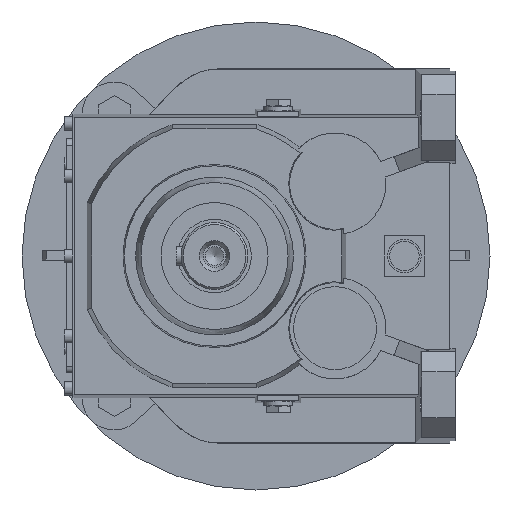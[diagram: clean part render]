
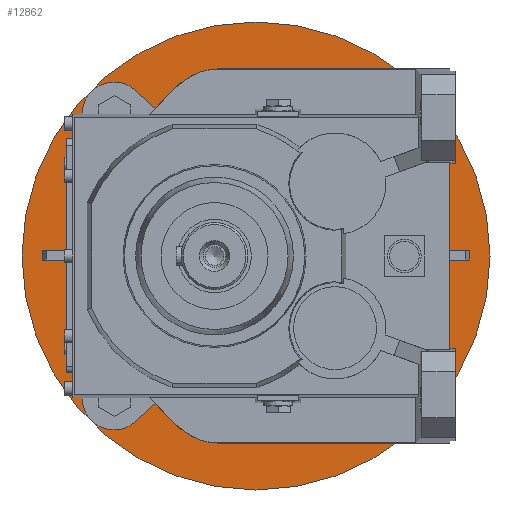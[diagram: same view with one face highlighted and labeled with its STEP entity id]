
A CAD part, left-side view. The second image highlights one B-rep face of the part: STEP entity #12862.
In plain terms, the highlighted planar face has unit normal (-1, 0, 0) as drawn and (1, 0, 0) by its records, which use the part's own axes.
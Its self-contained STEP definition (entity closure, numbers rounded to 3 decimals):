
#767=LINE('',#18616,#1689);
#768=LINE('',#18620,#1690);
#769=LINE('',#18621,#1691);
#770=LINE('',#18623,#1692);
#771=LINE('',#18625,#1693);
#772=LINE('',#18626,#1694);
#773=LINE('',#18630,#1695);
#774=LINE('',#18631,#1696);
#775=LINE('',#18635,#1697);
#776=LINE('',#18636,#1698);
#777=LINE('',#18638,#1699);
#778=LINE('',#18640,#1700);
#779=LINE('',#18641,#1701);
#780=LINE('',#18645,#1702);
#1689=VECTOR('',#15620,1000.);
#1690=VECTOR('',#15623,1000.);
#1691=VECTOR('',#15624,1000.);
#1692=VECTOR('',#15625,1000.);
#1693=VECTOR('',#15626,1000.);
#1694=VECTOR('',#15627,1000.);
#1695=VECTOR('',#15630,1000.);
#1696=VECTOR('',#15631,1000.);
#1697=VECTOR('',#15634,1000.);
#1698=VECTOR('',#15635,1000.);
#1699=VECTOR('',#15636,1000.);
#1700=VECTOR('',#15637,1000.);
#1701=VECTOR('',#15638,1000.);
#1702=VECTOR('',#15641,1000.);
#2210=PLANE('',#13629);
#2547=CIRCLE('',#13597,126.218);
#2548=CIRCLE('',#13599,126.218);
#2549=CIRCLE('',#13601,126.218);
#2550=CIRCLE('',#13603,126.218);
#2551=CIRCLE('',#13605,126.218);
#2552=CIRCLE('',#13607,126.218);
#2567=CIRCLE('',#13630,175.);
#2568=CIRCLE('',#13631,24.);
#2569=CIRCLE('',#13632,24.);
#2570=CIRCLE('',#13633,24.);
#2571=CIRCLE('',#13634,24.);
#4340=ORIENTED_EDGE('',*,*,#6108,.T.);
#4341=ORIENTED_EDGE('',*,*,#6022,.F.);
#4342=ORIENTED_EDGE('',*,*,#6109,.F.);
#4343=ORIENTED_EDGE('',*,*,#6110,.F.);
#4344=ORIENTED_EDGE('',*,*,#6111,.T.);
#4345=ORIENTED_EDGE('',*,*,#6024,.F.);
#4346=ORIENTED_EDGE('',*,*,#6112,.F.);
#4347=ORIENTED_EDGE('',*,*,#6113,.T.);
#4348=ORIENTED_EDGE('',*,*,#6114,.T.);
#4349=ORIENTED_EDGE('',*,*,#6031,.F.);
#4350=ORIENTED_EDGE('',*,*,#6115,.F.);
#4351=ORIENTED_EDGE('',*,*,#6116,.F.);
#4352=ORIENTED_EDGE('',*,*,#6117,.F.);
#4353=ORIENTED_EDGE('',*,*,#6016,.F.);
#4354=ORIENTED_EDGE('',*,*,#6118,.F.);
#4355=ORIENTED_EDGE('',*,*,#6119,.F.);
#4356=ORIENTED_EDGE('',*,*,#6120,.F.);
#4357=ORIENTED_EDGE('',*,*,#6018,.F.);
#4358=ORIENTED_EDGE('',*,*,#6121,.F.);
#4359=ORIENTED_EDGE('',*,*,#6122,.F.);
#4360=ORIENTED_EDGE('',*,*,#6123,.T.);
#4361=ORIENTED_EDGE('',*,*,#6028,.F.);
#4362=ORIENTED_EDGE('',*,*,#6124,.F.);
#4363=ORIENTED_EDGE('',*,*,#6125,.F.);
#4364=ORIENTED_EDGE('',*,*,#6126,.T.);
#6016=EDGE_CURVE('',#7046,#7047,#2547,.T.);
#6018=EDGE_CURVE('',#7048,#7049,#2548,.T.);
#6022=EDGE_CURVE('',#7050,#7051,#2549,.T.);
#6024=EDGE_CURVE('',#7052,#7053,#2550,.T.);
#6028=EDGE_CURVE('',#7054,#7055,#2551,.T.);
#6031=EDGE_CURVE('',#7056,#7057,#2552,.T.);
#6108=EDGE_CURVE('',#7125,#7125,#2567,.T.);
#6109=EDGE_CURVE('',#7126,#7050,#767,.T.);
#6110=EDGE_CURVE('',#7127,#7126,#2568,.T.);
#6111=EDGE_CURVE('',#7127,#7053,#768,.T.);
#6112=EDGE_CURVE('',#7128,#7052,#769,.T.);
#6113=EDGE_CURVE('',#7128,#7129,#770,.T.);
#6114=EDGE_CURVE('',#7129,#7057,#771,.T.);
#6115=EDGE_CURVE('',#7130,#7056,#772,.T.);
#6116=EDGE_CURVE('',#7131,#7130,#2569,.T.);
#6117=EDGE_CURVE('',#7047,#7131,#773,.T.);
#6118=EDGE_CURVE('',#7132,#7046,#774,.T.);
#6119=EDGE_CURVE('',#7133,#7132,#2570,.T.);
#6120=EDGE_CURVE('',#7049,#7133,#775,.T.);
#6121=EDGE_CURVE('',#7134,#7048,#776,.T.);
#6122=EDGE_CURVE('',#7135,#7134,#777,.T.);
#6123=EDGE_CURVE('',#7135,#7055,#778,.T.);
#6124=EDGE_CURVE('',#7136,#7054,#779,.T.);
#6125=EDGE_CURVE('',#7137,#7136,#2571,.T.);
#6126=EDGE_CURVE('',#7137,#7051,#780,.T.);
#7046=VERTEX_POINT('',#18376);
#7047=VERTEX_POINT('',#18378);
#7048=VERTEX_POINT('',#18385);
#7049=VERTEX_POINT('',#18386);
#7050=VERTEX_POINT('',#18400);
#7051=VERTEX_POINT('',#18402);
#7052=VERTEX_POINT('',#18409);
#7053=VERTEX_POINT('',#18410);
#7054=VERTEX_POINT('',#18424);
#7055=VERTEX_POINT('',#18426);
#7056=VERTEX_POINT('',#18436);
#7057=VERTEX_POINT('',#18438);
#7125=VERTEX_POINT('',#18615);
#7126=VERTEX_POINT('',#18617);
#7127=VERTEX_POINT('',#18619);
#7128=VERTEX_POINT('',#18622);
#7129=VERTEX_POINT('',#18624);
#7130=VERTEX_POINT('',#18627);
#7131=VERTEX_POINT('',#18629);
#7132=VERTEX_POINT('',#18632);
#7133=VERTEX_POINT('',#18634);
#7134=VERTEX_POINT('',#18637);
#7135=VERTEX_POINT('',#18639);
#7136=VERTEX_POINT('',#18642);
#7137=VERTEX_POINT('',#18644);
#7874=EDGE_LOOP('',(#4340));
#7875=EDGE_LOOP('',(#4341,#4342,#4343,#4344,#4345,#4346,#4347,#4348,#4349,
#4350,#4351,#4352,#4353,#4354,#4355,#4356,#4357,#4358,#4359,#4360,#4361,
#4362,#4363,#4364));
#8561=FACE_BOUND('',#7874,.T.);
#8562=FACE_BOUND('',#7875,.T.);
#12862=ADVANCED_FACE('',(#8561,#8562),#2210,.T.);
#13597=AXIS2_PLACEMENT_3D('',#18377,#15498,#15499);
#13599=AXIS2_PLACEMENT_3D('',#18384,#15502,#15503);
#13601=AXIS2_PLACEMENT_3D('',#18401,#15506,#15507);
#13603=AXIS2_PLACEMENT_3D('',#18408,#15510,#15511);
#13605=AXIS2_PLACEMENT_3D('',#18425,#15514,#15515);
#13607=AXIS2_PLACEMENT_3D('',#18437,#15518,#15519);
#13629=AXIS2_PLACEMENT_3D('',#18613,#15616,#15617);
#13630=AXIS2_PLACEMENT_3D('',#18614,#15618,#15619);
#13631=AXIS2_PLACEMENT_3D('',#18618,#15621,#15622);
#13632=AXIS2_PLACEMENT_3D('',#18628,#15628,#15629);
#13633=AXIS2_PLACEMENT_3D('',#18633,#15632,#15633);
#13634=AXIS2_PLACEMENT_3D('',#18643,#15639,#15640);
#15498=DIRECTION('',(1.,0.,0.));
#15499=DIRECTION('',(0.,0.,-1.));
#15502=DIRECTION('',(1.,0.,0.));
#15503=DIRECTION('',(0.,0.,-1.));
#15506=DIRECTION('',(1.,0.,0.));
#15507=DIRECTION('',(0.,0.,-1.));
#15510=DIRECTION('',(1.,0.,0.));
#15511=DIRECTION('',(0.,0.,-1.));
#15514=DIRECTION('',(1.,0.,0.));
#15515=DIRECTION('',(0.,0.,-1.));
#15518=DIRECTION('',(1.,0.,0.));
#15519=DIRECTION('',(0.,0.,-1.));
#15616=DIRECTION('',(1.,0.,0.));
#15617=DIRECTION('',(0.,0.,-1.));
#15618=DIRECTION('',(1.,0.,0.));
#15619=DIRECTION('',(0.,0.,-1.));
#15620=DIRECTION('',(0.,-0.737,-0.676));
#15621=DIRECTION('',(1.,0.,0.));
#15622=DIRECTION('',(0.,1.,0.));
#15623=DIRECTION('',(0.,-0.676,-0.737));
#15624=DIRECTION('',(0.,-1.,0.));
#15625=DIRECTION('',(0.,0.,-1.));
#15626=DIRECTION('',(0.,-1.,0.));
#15627=DIRECTION('',(0.,-0.676,0.737));
#15628=DIRECTION('',(1.,0.,0.));
#15629=DIRECTION('',(0.,0.,-1.));
#15630=DIRECTION('',(0.,0.737,-0.676));
#15631=DIRECTION('',(0.,0.737,0.676));
#15632=DIRECTION('',(1.,0.,0.));
#15633=DIRECTION('',(0.,-1.,0.));
#15634=DIRECTION('',(0.,-0.676,-0.737));
#15635=DIRECTION('',(0.,1.,0.));
#15636=DIRECTION('',(0.,0.,-1.));
#15637=DIRECTION('',(0.,1.,0.));
#15638=DIRECTION('',(0.,0.676,-0.737));
#15639=DIRECTION('',(1.,0.,0.));
#15640=DIRECTION('',(0.,0.,1.));
#15641=DIRECTION('',(0.,0.737,-0.676));
#18376=CARTESIAN_POINT('',(15.,-69.657,-105.256));
#18377=CARTESIAN_POINT('',(15.,0.,0.));
#18378=CARTESIAN_POINT('',(15.,69.657,-105.256));
#18384=CARTESIAN_POINT('',(15.,0.,0.));
#18385=CARTESIAN_POINT('',(15.,-126.155,-4.));
#18386=CARTESIAN_POINT('',(15.,-105.256,-69.657));
#18400=CARTESIAN_POINT('',(15.,69.657,105.256));
#18401=CARTESIAN_POINT('',(15.,0.,0.));
#18402=CARTESIAN_POINT('',(15.,-69.657,105.256));
#18408=CARTESIAN_POINT('',(15.,0.,0.));
#18409=CARTESIAN_POINT('',(15.,126.182,3.));
#18410=CARTESIAN_POINT('',(15.,105.256,69.657));
#18424=CARTESIAN_POINT('',(15.,-105.256,69.657));
#18425=CARTESIAN_POINT('',(15.,0.,0.));
#18426=CARTESIAN_POINT('',(15.,-126.182,3.));
#18436=CARTESIAN_POINT('',(15.,105.256,-69.657));
#18437=CARTESIAN_POINT('',(15.,0.,0.));
#18438=CARTESIAN_POINT('',(15.,126.155,-4.));
#18613=CARTESIAN_POINT('',(15.,126.218,0.));
#18614=CARTESIAN_POINT('',(15.,0.,0.));
#18615=CARTESIAN_POINT('',(15.,0.,-175.));
#18616=CARTESIAN_POINT('',(15.,89.852,123.761));
#18617=CARTESIAN_POINT('',(15.,89.852,123.761));
#18618=CARTESIAN_POINT('',(15.,106.066,106.066));
#18619=CARTESIAN_POINT('',(15.,123.761,89.852));
#18620=CARTESIAN_POINT('',(15.,80.127,42.234));
#18621=CARTESIAN_POINT('',(15.,160.,3.));
#18622=CARTESIAN_POINT('',(15.,160.,3.));
#18623=CARTESIAN_POINT('',(15.,160.,0.));
#18624=CARTESIAN_POINT('',(15.,160.,-4.));
#18625=CARTESIAN_POINT('',(15.,160.,-4.));
#18626=CARTESIAN_POINT('',(15.,123.761,-89.852));
#18627=CARTESIAN_POINT('',(15.,123.761,-89.852));
#18628=CARTESIAN_POINT('',(15.,106.066,-106.066));
#18629=CARTESIAN_POINT('',(15.,89.852,-123.761));
#18630=CARTESIAN_POINT('',(15.,29.812,-68.744));
#18631=CARTESIAN_POINT('',(15.,-89.852,-123.761));
#18632=CARTESIAN_POINT('',(15.,-89.852,-123.761));
#18633=CARTESIAN_POINT('',(15.,-106.066,-106.066));
#18634=CARTESIAN_POINT('',(15.,-123.761,-89.852));
#18635=CARTESIAN_POINT('',(15.,-68.744,-29.812));
#18636=CARTESIAN_POINT('',(15.,126.218,-4.));
#18637=CARTESIAN_POINT('',(15.,-160.,-4.));
#18638=CARTESIAN_POINT('',(15.,-160.,3.));
#18639=CARTESIAN_POINT('',(15.,-160.,3.));
#18640=CARTESIAN_POINT('',(15.,126.218,3.));
#18641=CARTESIAN_POINT('',(15.,-123.761,89.852));
#18642=CARTESIAN_POINT('',(15.,-123.761,89.852));
#18643=CARTESIAN_POINT('',(15.,-106.066,106.066));
#18644=CARTESIAN_POINT('',(15.,-89.852,123.761));
#18645=CARTESIAN_POINT('',(15.,89.244,-40.35));
